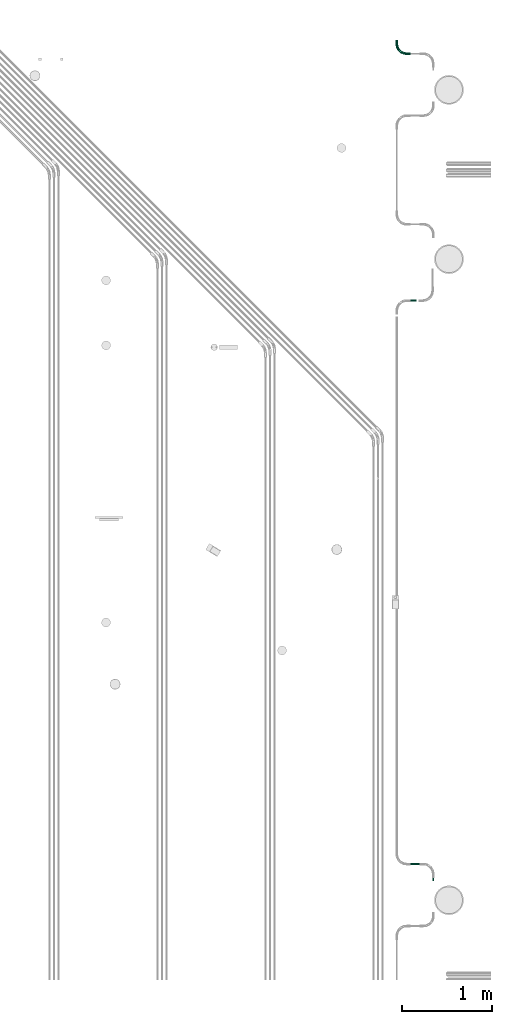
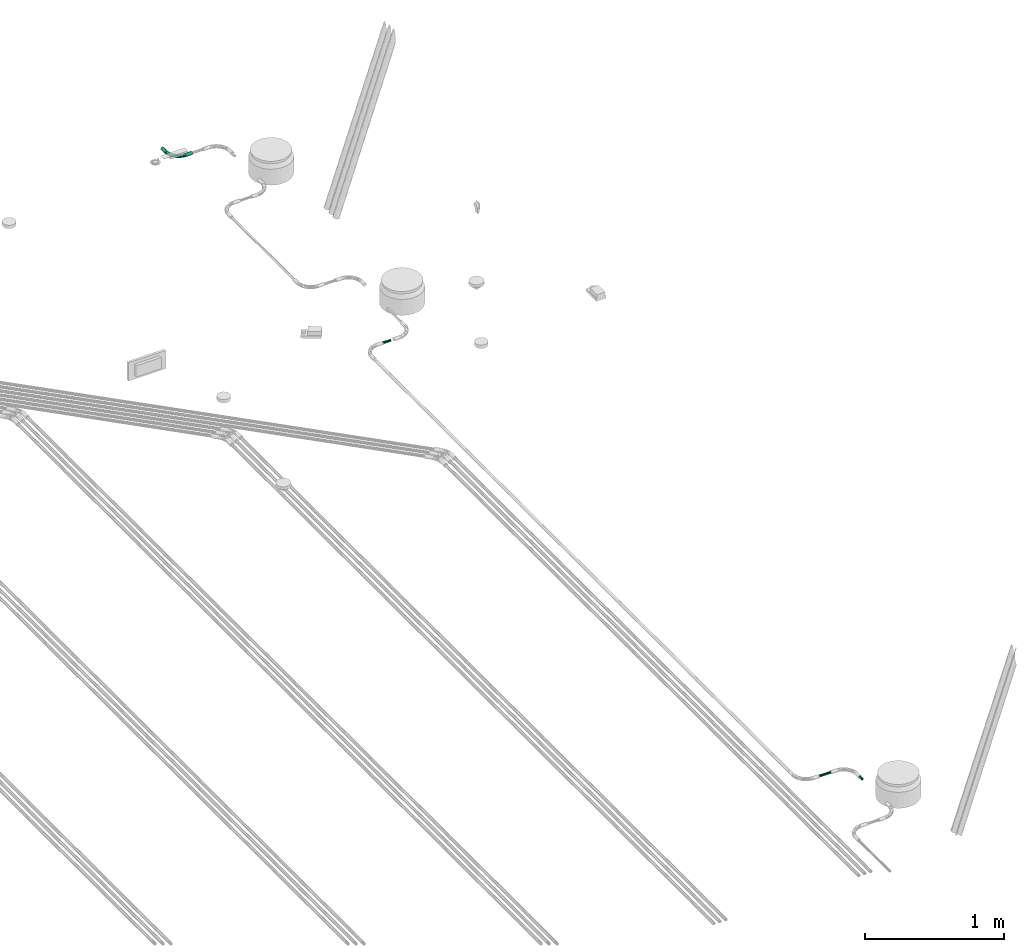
# One storey, part 27 of 51: 3 flow segments, 1 flow fitting.
"""IFC2X3 building model written with IfcOpenShell, lengths in millimetres."""

from ifc_helpers import new_model, entity, si_unit, converted_unit, derived_unit, direction, frame, origin_with_axes, origin_2d_with_axis, place, context, subcontext, project, spatial, hollow_circle, extrude, open_shell, surface_model, source, transform, mapped, type_object, element, save


model = new_model("IFC2X3")

# Units and contexts
model_context = context("Model", 3, precision=0.01, world=frame((0.0, 4.29681676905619e-09, 0.0)), true_north=direction((4.01073788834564e-13, 1.0)))
plan_context = context("Plan", 3, precision=0.01, world=frame((0.0, 4.29681676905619e-09, 0.0)), true_north=direction((4.01073788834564e-13, 1.0)))
body_context = subcontext(model_context, "Body", "Model", "MODEL_VIEW")
ifc_project = project(units=[converted_unit("PLANEANGLEUNIT", "DEGREE", entity("IfcPositiveLengthMeasure", 0.0174532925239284), si_unit("PLANEANGLEUNIT", "RADIAN"), dimensions=[0, 0, 0, 0, 0, 0, 0]), si_unit("AREAUNIT", "SQUARE_METRE"), si_unit("LENGTHUNIT", "METRE", prefix="MILLI"), si_unit("MASSUNIT", "GRAM", prefix="KILO"), si_unit("POWERUNIT", "WATT"), si_unit("PRESSUREUNIT", "PASCAL"), si_unit("FORCEUNIT", "NEWTON", prefix="KILO"), si_unit("ELECTRICVOLTAGEUNIT", "VOLT"), si_unit("ELECTRICCURRENTUNIT", "AMPERE"), si_unit("THERMODYNAMICTEMPERATUREUNIT", "DEGREE_CELSIUS"), si_unit("TIMEUNIT", "SECOND"), si_unit("VOLUMEUNIT", "CUBIC_METRE"), derived_unit("LINEARVELOCITYUNIT", [(si_unit("LENGTHUNIT", "METRE"), 1), (si_unit("TIMEUNIT", "SECOND"), -1)]), derived_unit("VOLUMETRICFLOWRATEUNIT", [(si_unit("VOLUMEUNIT", "CUBIC_METRE"), 1), (si_unit("TIMEUNIT", "SECOND"), -1)]), derived_unit("THERMALTRANSMITTANCEUNIT", [(si_unit("POWERUNIT", "WATT"), 1), (si_unit("THERMODYNAMICTEMPERATUREUNIT", "KELVIN"), -1), (si_unit("AREAUNIT", "SQUARE_METRE"), -1)]), derived_unit("SOUNDPRESSUREUNIT", [(si_unit("PRESSUREUNIT", "PASCAL"), 1)])], contexts=[model_context, plan_context])

# Site, building, storey
site_placement = place(None, frame((0.0, -4.29681676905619e-09, 0.0), z_axis=(0.0, 0.0, 1.0), x_axis=(1.0, 0.0, 0.0)))
site = spatial("IfcSite", under=ifc_project, at=site_placement, Name="ENGM", CompositionType="ELEMENT")
building_placement = place(site_placement, frame((0.0, 4.29681676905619e-09, 0.0), z_axis=(0.0, 0.0, 1.0), x_axis=(1.0, 0.0, 0.0)))
building = spatial("IfcBuilding", under=site, at=building_placement, Name="TI", CompositionType="ELEMENT")
storey_placement = place(building_placement, frame((0.0, 0.0, 210900.0), z_axis=(0.0, 0.0, 1.0), x_axis=(1.0, 0.0, 0.0)))
storey = spatial("IfcBuildingStorey", under=building, at=storey_placement, Name="Nivå F", CompositionType="ELEMENT", Elevation=210900.0)

# Flow fitting
cable_carrier_fitting_type = type_object("IfcCableCarrierFittingType", Name="Trekkerør, glatt bend", PredefinedType="BEND")
shared_shape_1 = source(origin_with_axes(), body_context, "Body", "SurfaceModel", [
    surface_model("IfcShellBasedSurfaceModel", [(-154.55625, 0.0, -14.27109), (-154.55625, -13.78482, -3.69363), (-154.55625, 3.69363, -13.78482), (-154.55625, 7.13555, -12.35913), (-154.55625, 12.35913, -7.13555), (-154.55625, -14.27109, 0.0), (-154.55625, 10.09119, -10.09119), (-154.55625, -13.78482, 3.69363), (-154.55625, -10.09119, -10.09119), (-154.55625, -12.35913, -7.13555), (-154.55625, -7.13555, -12.35913), (-154.55625, -3.69363, -13.78482), (-154.55625, 13.78482, -3.69363), (-154.55625, 14.27109, 0.0), (-154.55625, -12.35913, 7.13555), (-154.55625, 13.78482, 3.69363), (-154.55625, 12.35913, 7.13555), (-154.55625, 7.13555, 12.35913), (-154.55625, -3.69363, 13.78482), (-154.55625, 10.09119, 10.09119), (-154.55625, 3.69363, 13.78482), (-154.55625, 0.0, 14.27109), (-154.55625, -10.09119, 10.09119), (-154.55625, -7.13555, 12.35913), (-109.53828, -14.27109, 0.0), (-109.53828, -13.78482, 3.69363), (-109.53828, -12.35913, 7.13555), (-109.53828, -10.09119, 10.09119), (-109.53828, -7.13555, 12.35913), (-109.53828, -3.69363, 13.78482), (-109.53828, 0.0, 14.27109), (-109.53828, 3.69363, 13.78482), (-109.53828, 7.13555, 12.35913), (-109.53828, 10.09119, 10.09119), (-109.53828, 12.35913, 7.13555), (-109.53828, 13.78482, 3.69363), (-109.53828, 14.27109, 0.0), (-109.53828, 13.78482, -3.69363), (-109.53828, 12.35913, -7.13555), (-109.53828, 10.09119, -10.09119), (-109.53828, 7.13555, -12.35913), (-109.53828, 3.69363, -13.78482), (-109.53828, 0.0, -14.27109), (-109.53828, -3.69363, -13.78482), (-109.53828, -7.13555, -12.35913), (-109.53828, -10.09119, -10.09119), (-109.53828, -12.35913, -7.13555), (-109.53828, -13.78482, -3.69363), (-3.69363, 109.53828, 13.78482), (-7.1534, 89.99414, 13.24855), (-5.52615, 80.75509, 14.17919), (-60.76988, -1.31586, 8.35584), (-86.74719, -9.26979, 8.53701), (-78.43143, -9.27777, 5.21969), (-54.57322, 16.38341, 14.20456), (-37.47603, 23.87443, 14.06701), (-28.15284, 38.55475, 14.18707), (-61.24691, 4.75102, 13.02092), (-78.33811, -4.70928, 11.16152), (-49.9274, 6.84288, 10.90618), (-95.50078, -12.04777, 0.0), (-71.27908, -8.21143, 0.0), (-84.10609, -11.40642, 2.49425), (-84.40829, 4.61635, 14.17552), (-21.30634, 35.06714, 12.98487), (-25.5172, 25.5172, 10.83717), (-6.52074, 51.84045, 11.43645), (-14.9351, 49.72791, 14.07022), (-36.13298, 13.4524, 8.61377), (-48.07555, 3.07814, 4.93607), (-22.8399, 22.8399, 5.72655), (-61.42092, -4.26023, 2.69213), (-43.25505, 5.21821, 2.45459), (-76.37759, 10.60152, 13.29307), (-84.26876, 11.72213, 11.45557), (-16.10152, 32.64981, 8.49548), (-91.7629, 12.84689, 8.81067), (-78.89232, 2.16712, 14.11264), (-86.94002, -3.39666, 13.1113), (-53.54164, 32.46551, 0.0), (-80.0991, 18.9338, 0.0), (-65.27277, 24.4813, 4.15685), (-70.11513, 19.34285, 8.96525), (-58.85951, 26.77111, 6.9074), (-87.03749, 15.77002, 5.64275), (-7.13555, 109.53828, 12.35913), (-10.09119, 109.53828, 10.09119), (-12.24312, 82.27842, 11.46622), (-88.43996, 16.36335, 2.74565), (-0.11486, 73.25678, 13.06442), (7.13555, 109.53828, 12.35913), (3.69363, 109.53828, 13.78482), (-41.93843, 41.93843, 3.06688), (-41.06778, 41.06778, 6.49711), (-12.84689, 91.7629, 8.81067), (-12.35913, 109.53828, 7.13555), (5.39094, 64.47541, 3.19158), (-3.07814, 48.07555, 4.93607), (-3.51803, 45.96754, 2.3263), (-36.76496, 9.37439, 0.0), (-23.06967, 23.06967, 0.0), (0.0, 109.53828, 14.27109), (-0.81133, 84.32322, 14.11955), (-41.69927, 29.72188, 13.44421), (12.35913, 109.53828, 7.13555), (9.27777, 78.43143, 5.21969), (13.78482, 109.53828, 3.69363), (-57.22502, 11.42573, 14.17543), (9.26979, 86.74719, 8.53701), (1.31586, 60.76988, 8.35584), (5.72038, 82.4285, 11.18319), (11.40642, 84.10609, 2.49425), (-59.15779, 20.7896, 12.14962), (-18.9338, 80.0991, 0.0), (-32.46551, 53.54164, 0.0), (-24.4813, 65.27277, 4.15685), (-16.36335, 88.43996, 2.74565), (-14.27109, 109.53828, 0.0), (-8.62571, 53.03293, 12.89354), (-13.78482, 109.53828, 3.69363), (-15.77002, 87.03749, 5.64275), (-37.83174, 37.83174, 11.72896), (-22.74629, 58.47709, 11.20332), (-35.02355, 44.66648, 9.39592), (-51.28798, 28.82677, 10.17947), (-14.20714, 66.91103, 13.32458), (10.09119, 109.53828, 10.09119), (12.04777, 95.50078, 0.0), (-26.77111, 58.85951, 6.9074), (-19.34285, 70.11513, 8.96525), (-22.27171, 49.8428, 13.75381), (-14.02071, 58.08047, 14.23303), (-38.19919, 17.37508, 12.43121), (-25.3167, 50.04426, 12.74411), (-58.12909, 18.65185, 13.32115), (-15.5265, 29.44086, 2.9254), (-54.02202, 0.58148, 0.0), (-9.37439, 36.76496, 0.0), (-0.58148, 54.02202, 0.0), (8.21143, 71.27908, 0.0), (14.27109, 109.53828, 0.0), (-82.27842, 12.24312, -11.46622), (-16.38341, 54.57322, -14.20456), (-23.87443, 37.47603, -14.06701), (-38.55475, 28.15284, -14.18707), (-91.7629, 12.84689, -8.81067), (-24.4813, 65.27277, -4.15685), (-88.43996, 16.36335, -2.74565), (-65.27277, 24.4813, -4.15685), (-87.03749, 15.77002, -5.64275), (12.35913, 109.53828, -7.13555), (13.78482, 109.53828, -3.69363), (9.27777, 78.43143, -5.21969), (-84.10609, -11.40642, -2.49425), (-61.42092, -4.26023, -2.69213), (-41.93843, 41.93843, -3.06688), (-4.61635, 84.40829, -14.17552), (-3.69363, 109.53828, -13.78482), (0.0, 109.53828, -14.27109), (-48.07555, 3.07814, -4.93607), (-78.43143, -9.27777, -5.21969), (-60.76988, -1.31586, -8.35584), (-82.4285, -5.72038, -11.18319), (-51.84045, 6.52074, -11.43645), (-86.74719, -9.26979, -8.53701), (3.39666, 86.94002, -13.1113), (4.70928, 78.33811, -11.16152), (-4.75102, 61.24691, -13.02092), (-3.51803, 45.96754, -2.3263), (-15.5265, 29.44086, -2.9254), (-73.25678, 0.11486, -13.06442), (11.40642, 84.10609, -2.49425), (-84.32322, 0.81133, -14.11955), (-11.42573, 57.22502, -14.17543), (-3.07814, 48.07555, -4.93607), (1.31586, 60.76988, -8.35584), (-89.99414, 7.1534, -13.24855), (-10.60152, 76.37759, -13.29307), (-6.84288, 49.9274, -10.90618), (-2.16712, 78.89232, -14.11264), (-13.4524, 36.13298, -8.61377), (-25.5172, 25.5172, -10.83717), (-13.78482, 109.53828, -3.69363), (-16.36335, 88.43996, -2.74565), (3.69363, 109.53828, -13.78482), (-26.77111, 58.85951, -6.9074), (-15.77002, 87.03749, -5.64275), (-19.34285, 70.11513, -8.96525), (-12.35913, 109.53828, -7.13555), (-80.75509, 5.52615, -14.17919), (10.09119, 109.53828, -10.09119), (9.26979, 86.74719, -8.53701), (-10.09119, 109.53828, -10.09119), (-7.13555, 109.53828, -12.35913), (-11.72213, 84.26876, -11.45557), (-35.06714, 21.30634, -12.98487), (-32.64981, 16.10152, -8.49548), (-41.06778, 41.06777, -6.49711), (-29.72188, 41.69927, -13.44421), (7.13555, 109.53828, -12.35913), (-58.47709, 22.74629, -11.20332), (-66.91103, 14.20714, -13.32458), (-22.8399, 22.8399, -5.72655), (-49.72791, 14.9351, -14.07022), (-44.66648, 35.02355, -9.39592), (-28.82677, 51.28798, -10.17947), (-37.83174, 37.83174, -11.72896), (-20.7896, 59.15779, -12.14962), (-43.25505, 5.21821, -2.45459), (-53.03293, 8.62571, -12.89354), (-12.84689, 91.7629, -8.81067), (-58.85951, 26.77111, -6.9074), (-70.11513, 19.34285, -8.96525), (-49.8428, 22.27171, -13.75381), (-58.08047, 14.02071, -14.23303), (-17.37508, 38.19919, -12.43121), (-50.04426, 25.3167, -12.74411), (-18.65185, 58.12909, -13.32115), (5.39094, 64.47541, -3.19158), (-13.78482, 154.55625, -3.69363), (0.0, 154.55625, -14.27109), (-3.69363, 154.55625, -13.78482), (-12.35913, 154.55625, -7.13555), (-7.13555, 154.55625, -12.35913), (-10.09119, 154.55625, -10.09119), (14.27109, 154.55625, 0.0), (7.13555, 154.55625, -12.35913), (12.35913, 154.55625, -7.13555), (10.09119, 154.55625, -10.09119), (3.69363, 154.55625, -13.78482), (13.78482, 154.55625, -3.69363), (-14.27109, 154.55625, 0.0), (13.78482, 154.55625, 3.69363), (-13.78482, 154.55625, 3.69363), (-7.13555, 154.55625, 12.35913), (-12.35913, 154.55625, 7.13555), (-10.09119, 154.55625, 10.09119), (0.0, 154.55625, 14.27109), (-3.69363, 154.55625, 13.78482), (10.09119, 154.55625, 10.09119), (12.35913, 154.55625, 7.13555), (3.69363, 154.55625, 13.78482), (7.13555, 154.55625, 12.35913)], [open_shell([[[0, 1, 2]], [[3, 2, 4]], [[5, 4, 2]], [[6, 3, 4]], [[5, 7, 4]], [[8, 9, 10]], [[0, 11, 10]], [[9, 1, 10]], [[1, 0, 10]], [[2, 1, 5]], [[7, 12, 4]], [[13, 14, 15]], [[16, 15, 17]], [[17, 15, 18]], [[19, 16, 17]], [[20, 17, 21]], [[22, 18, 14]], [[13, 7, 14]], [[23, 18, 22]], [[14, 18, 15]], [[18, 21, 17]], [[12, 7, 13]], [[7, 24, 25]], [[26, 14, 25]], [[23, 27, 28]], [[26, 27, 22]], [[18, 28, 29]], [[24, 7, 5]], [[25, 14, 7]], [[26, 22, 14]], [[27, 23, 22]], [[18, 23, 28]], [[29, 21, 18]], [[29, 30, 21]], [[17, 31, 32]], [[33, 19, 32]], [[15, 34, 35]], [[33, 34, 16]], [[13, 35, 36]], [[31, 20, 30]], [[31, 17, 20]], [[30, 20, 21]], [[32, 19, 17]], [[33, 16, 19]], [[15, 16, 34]], [[35, 13, 15]], [[12, 36, 37]], [[38, 4, 37]], [[3, 39, 40]], [[38, 39, 6]], [[2, 40, 41]], [[36, 12, 13]], [[37, 4, 12]], [[38, 6, 4]], [[39, 3, 6]], [[2, 3, 40]], [[41, 0, 2]], [[41, 42, 0]], [[10, 43, 44]], [[45, 8, 44]], [[1, 46, 47]], [[45, 46, 9]], [[5, 47, 24]], [[43, 11, 42]], [[43, 10, 11]], [[42, 11, 0]], [[44, 8, 10]], [[45, 9, 8]], [[1, 9, 46]], [[47, 5, 1]], [[48, 49, 50]], [[51, 52, 53]], [[54, 55, 56]], [[57, 58, 59]], [[60, 61, 62]], [[63, 31, 30]], [[58, 28, 27]], [[25, 60, 62]], [[64, 65, 66]], [[27, 52, 58]], [[67, 55, 64]], [[68, 69, 70]], [[71, 72, 69]], [[31, 73, 32]], [[26, 25, 53]], [[33, 32, 74]], [[75, 65, 68]], [[34, 33, 76]], [[77, 29, 78]], [[53, 69, 51]], [[79, 80, 81]], [[82, 83, 84]], [[85, 86, 87]], [[36, 35, 88]], [[35, 34, 84]], [[89, 90, 91]], [[92, 81, 93]], [[94, 86, 95]], [[28, 78, 29]], [[96, 97, 98]], [[99, 100, 72]], [[29, 77, 30]], [[101, 50, 102]], [[59, 58, 51]], [[54, 56, 103]], [[101, 102, 91]], [[104, 105, 106]], [[85, 49, 48]], [[107, 57, 55]], [[105, 104, 108]], [[97, 105, 109]], [[89, 110, 90]], [[68, 65, 59]], [[111, 106, 105]], [[63, 54, 73]], [[112, 82, 74]], [[113, 114, 115]], [[92, 115, 114]], [[77, 63, 30]], [[113, 116, 117]], [[48, 50, 101]], [[27, 26, 52]], [[64, 66, 118]], [[95, 119, 120]], [[116, 115, 120]], [[114, 79, 92]], [[121, 122, 123]], [[123, 124, 121]], [[122, 125, 87]], [[87, 86, 94]], [[109, 110, 66]], [[74, 32, 73]], [[90, 110, 126]], [[104, 126, 108]], [[78, 58, 57]], [[121, 112, 103]], [[75, 97, 109]], [[106, 111, 127]], [[84, 88, 35]], [[83, 93, 81]], [[93, 128, 115]], [[94, 120, 129]], [[125, 130, 131]], [[102, 67, 89]], [[122, 87, 129]], [[49, 87, 125]], [[66, 110, 89]], [[108, 110, 109]], [[118, 67, 64]], [[66, 65, 75]], [[112, 74, 73]], [[76, 74, 82]], [[63, 77, 107]], [[73, 31, 63]], [[102, 50, 131]], [[89, 91, 102]], [[67, 56, 55]], [[65, 132, 59]], [[107, 55, 54]], [[132, 55, 57]], [[131, 50, 125]], [[125, 122, 133]], [[134, 54, 103]], [[112, 121, 124]], [[134, 112, 73]], [[133, 130, 125]], [[53, 62, 71]], [[70, 69, 72]], [[97, 70, 135]], [[97, 135, 98]], [[84, 34, 76]], [[88, 81, 80]], [[116, 120, 119]], [[120, 115, 128]], [[81, 92, 79]], [[115, 92, 93]], [[58, 78, 28]], [[77, 78, 57]], [[53, 52, 26]], [[58, 52, 51]], [[110, 108, 126]], [[105, 108, 109]], [[68, 59, 51]], [[65, 64, 132]], [[69, 68, 51]], [[75, 68, 70]], [[97, 75, 70]], [[66, 75, 109]], [[87, 49, 85]], [[50, 49, 125]], [[129, 128, 123]], [[122, 121, 133]], [[129, 123, 122]], [[83, 124, 123]], [[83, 123, 93]], [[112, 124, 82]], [[121, 103, 133]], [[130, 103, 56]], [[103, 130, 133]], [[130, 56, 131]], [[56, 67, 131]], [[102, 131, 67]], [[81, 88, 84]], [[36, 88, 80]], [[117, 116, 119]], [[115, 116, 113]], [[55, 132, 64]], [[57, 59, 132]], [[25, 24, 60]], [[71, 62, 61]], [[25, 62, 53]], [[136, 99, 72]], [[53, 71, 69]], [[72, 71, 136]], [[137, 135, 100]], [[100, 135, 72]], [[135, 137, 98]], [[72, 135, 70]], [[98, 137, 138]], [[139, 111, 96]], [[71, 61, 136]], [[96, 138, 139]], [[127, 111, 139]], [[127, 140, 106]], [[96, 111, 105]], [[97, 96, 105]], [[96, 98, 138]], [[74, 76, 33]], [[84, 76, 82]], [[120, 94, 95]], [[87, 94, 129]], [[84, 83, 81]], [[124, 83, 82]], [[123, 128, 93]], [[120, 128, 129]], [[66, 89, 118]], [[67, 118, 89]], [[63, 107, 54]], [[57, 107, 77]], [[54, 134, 73]], [[103, 112, 134]], [[39, 141, 40]], [[142, 143, 144]], [[141, 39, 145]], [[114, 113, 146]], [[147, 148, 149]], [[150, 151, 152]], [[80, 147, 36]], [[61, 153, 154]], [[80, 79, 148]], [[155, 148, 79]], [[156, 157, 158]], [[37, 149, 38]], [[159, 160, 161]], [[161, 162, 163]], [[160, 46, 164]], [[165, 166, 167]], [[153, 47, 160]], [[168, 137, 169]], [[162, 44, 170]], [[151, 127, 171]], [[172, 43, 42]], [[173, 167, 143]], [[46, 160, 47]], [[44, 43, 170]], [[152, 174, 175]], [[45, 164, 46]], [[41, 40, 176]], [[156, 142, 177]], [[178, 166, 175]], [[179, 156, 158]], [[79, 114, 155]], [[180, 181, 178]], [[117, 182, 183]], [[184, 179, 158]], [[185, 186, 187]], [[188, 186, 182]], [[41, 176, 189]], [[190, 150, 191]], [[192, 193, 194]], [[195, 181, 163]], [[184, 165, 179]], [[44, 162, 45]], [[196, 181, 180]], [[146, 197, 155]], [[142, 144, 198]], [[165, 184, 199]], [[166, 190, 191]], [[200, 201, 141]], [[157, 177, 193]], [[174, 202, 180]], [[190, 166, 199]], [[143, 195, 203]], [[166, 178, 167]], [[204, 205, 206]], [[171, 127, 139]], [[41, 189, 42]], [[206, 207, 198]], [[152, 175, 191]], [[194, 193, 177]], [[208, 202, 169]], [[206, 200, 204]], [[172, 42, 189]], [[195, 163, 209]], [[210, 188, 192]], [[207, 187, 194]], [[145, 39, 38]], [[196, 159, 161]], [[47, 153, 60]], [[186, 183, 182]], [[185, 197, 146]], [[197, 211, 148]], [[145, 149, 212]], [[201, 213, 214]], [[172, 203, 170]], [[200, 141, 212]], [[176, 141, 201]], [[163, 162, 170]], [[164, 162, 161]], [[209, 203, 195]], [[163, 181, 196]], [[207, 194, 177]], [[210, 194, 187]], [[156, 179, 173]], [[177, 157, 156]], [[172, 189, 214]], [[170, 43, 172]], [[203, 144, 143]], [[181, 215, 178]], [[173, 143, 142]], [[215, 143, 167]], [[214, 189, 201]], [[201, 200, 216]], [[217, 142, 198]], [[207, 206, 205]], [[217, 207, 177]], [[216, 213, 201]], [[152, 171, 218]], [[202, 174, 169]], [[100, 208, 169]], [[208, 136, 154]], [[186, 188, 210]], [[183, 146, 113]], [[147, 149, 37]], [[149, 148, 211]], [[146, 155, 114]], [[148, 155, 197]], [[166, 165, 199]], [[179, 165, 167]], [[152, 191, 150]], [[166, 191, 175]], [[162, 164, 45]], [[160, 164, 161]], [[180, 178, 175]], [[181, 195, 215]], [[174, 180, 175]], [[196, 180, 202]], [[159, 196, 202]], [[163, 196, 161]], [[141, 176, 40]], [[189, 176, 201]], [[212, 211, 204]], [[200, 206, 216]], [[212, 204, 200]], [[185, 205, 204]], [[185, 204, 197]], [[207, 205, 187]], [[206, 198, 216]], [[213, 198, 144]], [[198, 213, 216]], [[213, 144, 214]], [[144, 203, 214]], [[172, 214, 203]], [[146, 183, 186]], [[117, 183, 113]], [[36, 147, 37]], [[148, 147, 80]], [[143, 215, 195]], [[167, 178, 215]], [[60, 153, 61]], [[60, 24, 47]], [[154, 160, 159]], [[160, 154, 153]], [[208, 154, 159]], [[202, 208, 159]], [[151, 140, 127]], [[100, 169, 137]], [[99, 208, 100]], [[168, 169, 174]], [[218, 174, 152]], [[218, 138, 168]], [[136, 208, 99]], [[138, 137, 168]], [[136, 61, 154]], [[139, 138, 218]], [[151, 171, 152]], [[139, 218, 171]], [[174, 218, 168]], [[194, 210, 192]], [[186, 210, 187]], [[149, 145, 38]], [[141, 145, 212]], [[186, 185, 146]], [[205, 185, 187]], [[204, 211, 197]], [[149, 211, 212]], [[163, 170, 209]], [[203, 209, 170]], [[156, 173, 142]], [[167, 173, 179]], [[142, 217, 177]], [[198, 207, 217]], [[219, 220, 221]], [[222, 221, 223]], [[222, 219, 221]], [[222, 223, 224]], [[220, 219, 225]], [[226, 227, 228]], [[226, 229, 220]], [[226, 230, 227]], [[226, 220, 230]], [[225, 230, 220]], [[219, 231, 225]], [[232, 225, 233]], [[234, 233, 235]], [[232, 233, 234]], [[234, 235, 236]], [[237, 234, 238]], [[232, 239, 240]], [[239, 232, 241]], [[239, 241, 242]], [[232, 234, 241]], [[234, 237, 241]], [[233, 225, 231]], [[106, 225, 232]], [[240, 104, 232]], [[90, 239, 242]], [[240, 239, 126]], [[91, 242, 241]], [[225, 106, 140]], [[232, 104, 106]], [[240, 126, 104]], [[239, 90, 126]], [[91, 90, 242]], [[241, 101, 91]], [[241, 237, 101]], [[85, 238, 234]], [[236, 86, 234]], [[119, 235, 233]], [[236, 235, 95]], [[117, 233, 231]], [[238, 48, 237]], [[238, 85, 48]], [[237, 48, 101]], [[234, 86, 85]], [[236, 95, 86]], [[119, 95, 235]], [[233, 117, 119]], [[182, 231, 219]], [[222, 188, 219]], [[193, 224, 223]], [[222, 224, 192]], [[157, 223, 221]], [[231, 182, 117]], [[219, 188, 182]], [[222, 192, 188]], [[224, 193, 192]], [[157, 193, 223]], [[221, 158, 157]], [[221, 220, 158]], [[199, 229, 226]], [[228, 190, 226]], [[151, 227, 230]], [[228, 227, 150]], [[140, 230, 225]], [[229, 184, 220]], [[229, 199, 184]], [[220, 184, 158]], [[226, 190, 199]], [[228, 150, 190]], [[151, 150, 227]], [[230, 140, 151]]])]),
])
flow_fitting_placement = place(storey_placement, frame((611382.66348, 699287.68309, -110.0), z_axis=(0.0, 0.0, 1.0), x_axis=(0.0, -1.0, 0.0)))
element("IfcFlowFitting", 1, at=flow_fitting_placement, inside=storey, type_object=cable_carrier_fitting_type, Name="Trekkerør, glatt bend", context=body_context, shape_type="MappedRepresentation", body=[
    mapped(shared_shape_1, transform((0.0, 0.0, 0.0), scale=1.0)),
])

# Flow segments
cable_carrier_segment_type = type_object("IfcCableCarrierSegmentType", Name="Trekkerør, korrugert", PredefinedType="CONDUITSEGMENT")
shared_shape_2 = source(origin_with_axes(), body_context, "Body", "SweptSolid", [
    extrude(hollow_circle(Radius=10.0, WallThickness=2.0, at=origin_2d_with_axis()), frame((0.0, 0.0, 0.0), z_axis=(1.0, 0.0, 0.0), x_axis=(0.0, 1.0, 0.0)), (0.0, 0.0, 1.0), 95.1),
])
flow_segment_1_placement = place(storey_placement, frame((611632.28301, 690287.68309, -110.0), z_axis=(0.0, 0.0, 1.0), x_axis=(-1.0, 0.0, 0.0)))
element("IfcFlowSegment", 2, at=flow_segment_1_placement, inside=storey, type_object=cable_carrier_segment_type, Name="Trekkerør, korrugert", context=body_context, shape_type="MappedRepresentation", body=[
    mapped(shared_shape_2, transform((0.0, 0.0, 0.0), scale=1.0)),
])
shared_shape_3 = source(origin_with_axes(), body_context, "Body", "SweptSolid", [
    extrude(hollow_circle(Radius=10.0, WallThickness=2.0, at=origin_2d_with_axis()), frame((0.0, 0.0, 0.0), z_axis=(1.0, 0.0, 0.0), x_axis=(0.0, 1.0, 0.0)), (0.0, 0.0, 1.0), 33.5),
])
flow_segment_2_placement = place(storey_placement, frame((611786.83926, 690133.12684, -110.0), z_axis=(0.0, 0.0, 1.0), x_axis=(0.0, -1.0, 0.0)))
element("IfcFlowSegment", 3, at=flow_segment_2_placement, inside=storey, type_object=cable_carrier_segment_type, Name="Trekkerør, korrugert", context=body_context, shape_type="MappedRepresentation", body=[
    mapped(shared_shape_3, transform((0.0, 0.0, 0.0), scale=1.0)),
])
shared_shape_4 = source(origin_with_axes(), body_context, "Body", "SweptSolid", [
    extrude(hollow_circle(Radius=10.0, WallThickness=2.0, at=origin_2d_with_axis()), frame((0.0, 0.0, 0.0), z_axis=(1.0, 0.0, 0.0), x_axis=(0.0, 1.0, 0.0)), (0.0, 0.0, 1.0), 64.6),
])
flow_segment_3_placement = place(storey_placement, frame((611537.21973, 696545.47613, -110.0), z_axis=(0.0, 0.0, 1.0), x_axis=(1.0, 0.0, 0.0)))
element("IfcFlowSegment", 4, at=flow_segment_3_placement, inside=storey, type_object=cable_carrier_segment_type, Name="Trekkerør, korrugert", context=body_context, shape_type="MappedRepresentation", body=[
    mapped(shared_shape_4, transform((0.0, 0.0, 0.0), scale=1.0)),
])

save(model, "model.ifc")
